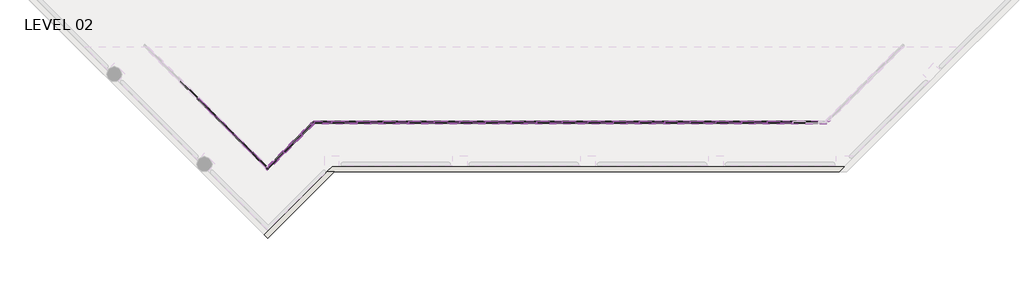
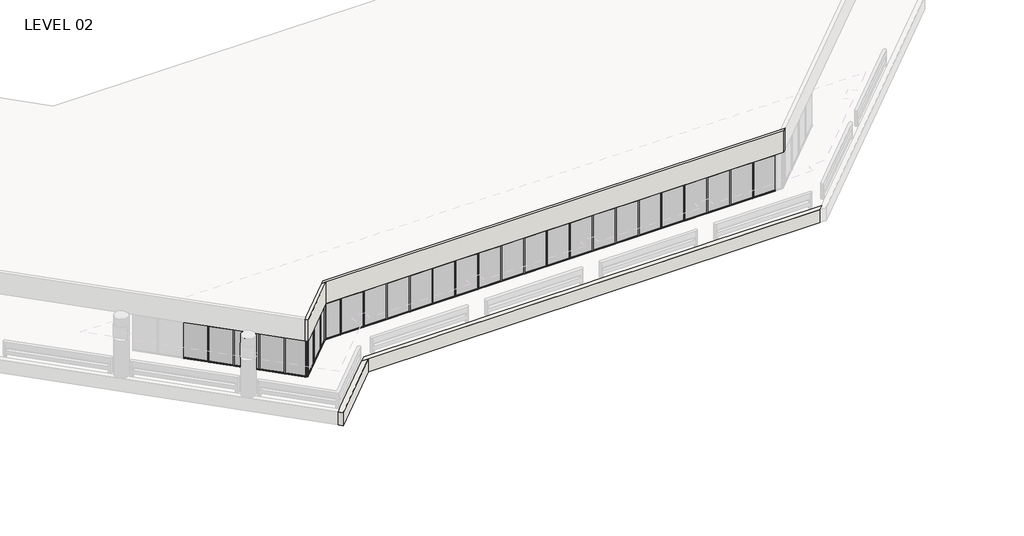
# One storey, part 1 of 19: 83 members, 28 plates, 4 walls.
"""IFC4 building model written with IfcOpenShell, lengths in millimetres."""

from ifc_helpers import new_model, si_unit, origin, place, context, project, spatial, faceted_brep, transform, mapped, element, save
from components import member_5247f267, member_ed5eb8ce, member_e44af9ab, member_800970d4, member_6d95746d, member_c23f844a, member_191f7a6c, member_e56bd8eb, plate_ce959b8d, plate_67294edd, plate_028de0fc, plate_c15461e5, plate_e2551f41, plate_50b9cd61

model = new_model("IFC4")

# Units and contexts
model_context = context("Model", 3, world=origin())
ifc_project = project(units=[si_unit("LENGTHUNIT", "METRE", prefix="MILLI")], contexts=[model_context])

# Site, building, storey
site = spatial("IfcSite", under=ifc_project)
building = spatial("IfcBuilding", under=site)
storey = spatial("IfcBuildingStorey", under=building, Name="LEVEL 02", Elevation=4140.2)

# Members
placement = place(None, origin())
member_shape = member_5247f267(model_context)
element("IfcMember", 1, ObjectType="Rectangular Mullion : 2\" x 4.5\" rectangular", at=placement, inside=storey, context=model_context, shape_type="MappedRepresentation", body=[
    mapped(member_shape, transform((18421.35, -2101.1671279, 4140.2), x_axis=(0.0, 0.0, -1.0), y_axis=(0.0, -1.0, 0.0), z_axis=(-1.0, 0.0, 0.0))),
])
element("IfcMember", 2, ObjectType="Rectangular Mullion : 2\" x 4.5\" rectangular", at=placement, inside=storey, context=model_context, shape_type="MappedRepresentation", body=[
    mapped(member_shape, transform((19945.35, -2101.1671279, 4140.2), x_axis=(0.0, 0.0, -1.0), y_axis=(0.0, -1.0, 0.0), z_axis=(-1.0, 0.0, 0.0))),
])
element("IfcMember", 3, ObjectType="Rectangular Mullion : 2\" x 4.5\" rectangular", at=placement, inside=storey, context=model_context, shape_type="MappedRepresentation", body=[
    mapped(member_shape, transform((24517.35, -2101.1671279, 4140.2), x_axis=(0.0, 0.0, -1.0), y_axis=(0.0, -1.0, 0.0), z_axis=(-1.0, 0.0, 0.0))),
])
element("IfcMember", 4, ObjectType="Rectangular Mullion : 2\" x 4.5\" rectangular", at=placement, inside=storey, context=model_context, shape_type="MappedRepresentation", body=[
    mapped(member_shape, transform((16596.8172391, -2827.1553914, 4140.2), x_axis=(0.0, 0.0, -1.0), y_axis=(-0.7071067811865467, 0.7071067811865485, 0.0), z_axis=(0.7071067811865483, 0.7071067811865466, 0.0))),
])
element("IfcMember", 5, ObjectType="Rectangular Mullion : 2\" x 4.5\" rectangular", at=placement, inside=storey, context=model_context, shape_type="MappedRepresentation", body=[
    mapped(member_shape, transform((26041.35, -2101.1671279, 4140.2), x_axis=(0.0, 0.0, -1.0), y_axis=(0.0, -1.0, 0.0), z_axis=(-1.0, 0.0, 0.0))),
])
element("IfcMember", 6, ObjectType="Rectangular Mullion : 2\" x 4.5\" rectangular", at=placement, inside=storey, context=model_context, shape_type="MappedRepresentation", body=[
    mapped(member_shape, transform((13637.83452, -3889.9071504, 4140.2), x_axis=(0.0, 0.0, -1.0), y_axis=(0.7071067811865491, 0.7071067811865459, 0.0), z_axis=(0.7071067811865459, -0.7071067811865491, 0.0))),
])
element("IfcMember", 7, ObjectType="Rectangular Mullion : 2\" x 4.5\" rectangular", at=placement, inside=storey, context=model_context, shape_type="MappedRepresentation", body=[
    mapped(member_shape, transform((30613.35, -2101.1671279, 4140.2), x_axis=(0.0, 0.0, -1.0), y_axis=(0.0, -1.0, 0.0), z_axis=(-1.0, 0.0, 0.0))),
])
element("IfcMember", 8, ObjectType="Rectangular Mullion : 2\" x 4.5\" rectangular", at=placement, inside=storey, context=model_context, shape_type="MappedRepresentation", body=[
    mapped(member_shape, transform((32137.35, -2101.1671279, 4140.2), x_axis=(0.0, 0.0, -1.0), y_axis=(0.0, -1.0, 0.0), z_axis=(-1.0, 0.0, 0.0))),
])
element("IfcMember", 9, ObjectType="Rectangular Mullion : 2\" x 4.5\" rectangular", at=placement, inside=storey, context=model_context, shape_type="MappedRepresentation", body=[
    mapped(member_shape, transform((35185.35, -2101.1671279, 4140.2), x_axis=(0.0, 0.0, -1.0), y_axis=(0.0, -1.0, 0.0), z_axis=(-1.0, 0.0, 0.0))),
])
element("IfcMember", 10, ObjectType="Rectangular Mullion : 2\" x 4.5\" rectangular", at=placement, inside=storey, context=model_context, shape_type="MappedRepresentation", body=[
    mapped(member_shape, transform((38233.35, -2101.1671279, 4140.2), x_axis=(0.0, 0.0, -1.0), y_axis=(0.0, -1.0, 0.0), z_axis=(-1.0, 0.0, 0.0))),
])
element("IfcMember", 11, ObjectType="Rectangular Mullion : 2\" x 4.5\" rectangular", at=placement, inside=storey, context=model_context, shape_type="MappedRepresentation", body=[
    mapped(member_shape, transform((41281.35, -2101.1671279, 4140.2), x_axis=(0.0, 0.0, -1.0), y_axis=(0.0, -1.0, 0.0), z_axis=(-1.0, 0.0, 0.0))),
])
element("IfcMember", 12, ObjectType="Rectangular Mullion : 2\" x 4.5\" rectangular", at=placement, inside=storey, context=model_context, shape_type="MappedRepresentation", body=[
    mapped(member_shape, transform((45853.35, -2101.1671279, 4140.2), x_axis=(0.0, 0.0, -1.0), y_axis=(0.0, -1.0, 0.0), z_axis=(-1.0, 0.0, 0.0))),
])
element("IfcMember", 13, ObjectType="Rectangular Mullion : 2\" x 4.5\" rectangular", at=placement, inside=storey, context=model_context, shape_type="MappedRepresentation", body=[
    mapped(member_shape, transform((21469.35, -2101.1671279, 4140.2), x_axis=(0.0, 0.0, -1.0), y_axis=(0.0, -1.0, 0.0), z_axis=(-1.0, 0.0, 0.0))),
])
element("IfcMember", 14, ObjectType="Rectangular Mullion : 2\" x 4.5\" rectangular", at=placement, inside=storey, context=model_context, shape_type="MappedRepresentation", body=[
    mapped(member_shape, transform((22993.35, -2101.1671279, 4140.2), x_axis=(0.0, 0.0, -1.0), y_axis=(0.0, -1.0, 0.0), z_axis=(-1.0, 0.0, 0.0))),
])
element("IfcMember", 15, ObjectType="Rectangular Mullion : 2\" x 4.5\" rectangular", at=placement, inside=storey, context=model_context, shape_type="MappedRepresentation", body=[
    mapped(member_shape, transform((27565.35, -2101.1671279, 4140.2), x_axis=(0.0, 0.0, -1.0), y_axis=(0.0, -1.0, 0.0), z_axis=(-1.0, 0.0, 0.0))),
])
element("IfcMember", 16, ObjectType="Rectangular Mullion : 2\" x 4.5\" rectangular", at=placement, inside=storey, context=model_context, shape_type="MappedRepresentation", body=[
    mapped(member_shape, transform((29089.35, -2101.1671279, 4140.2), x_axis=(0.0, 0.0, -1.0), y_axis=(0.0, -1.0, 0.0), z_axis=(-1.0, 0.0, 0.0))),
])
element("IfcMember", 17, ObjectType="Rectangular Mullion : 2\" x 4.5\" rectangular", at=placement, inside=storey, context=model_context, shape_type="MappedRepresentation", body=[
    mapped(member_shape, transform((33661.35, -2101.1671279, 4140.2), x_axis=(0.0, 0.0, -1.0), y_axis=(0.0, -1.0, 0.0), z_axis=(-1.0, 0.0, 0.0))),
])
element("IfcMember", 18, ObjectType="Rectangular Mullion : 2\" x 4.5\" rectangular", at=placement, inside=storey, context=model_context, shape_type="MappedRepresentation", body=[
    mapped(member_shape, transform((36709.35, -2101.1671279, 4140.2), x_axis=(0.0, 0.0, -1.0), y_axis=(0.0, -1.0, 0.0), z_axis=(-1.0, 0.0, 0.0))),
])
element("IfcMember", 19, ObjectType="Rectangular Mullion : 2\" x 4.5\" rectangular", at=placement, inside=storey, context=model_context, shape_type="MappedRepresentation", body=[
    mapped(member_shape, transform((39757.35, -2101.1671279, 4140.2), x_axis=(0.0, 0.0, -1.0), y_axis=(0.0, -1.0, 0.0), z_axis=(-1.0, 0.0, 0.0))),
])
element("IfcMember", 20, ObjectType="Rectangular Mullion : 2\" x 4.5\" rectangular", at=placement, inside=storey, context=model_context, shape_type="MappedRepresentation", body=[
    mapped(member_shape, transform((42805.35, -2101.1671279, 4140.2), x_axis=(0.0, 0.0, -1.0), y_axis=(0.0, -1.0, 0.0), z_axis=(-1.0, 0.0, 0.0))),
])
element("IfcMember", 21, ObjectType="Rectangular Mullion : 2\" x 4.5\" rectangular", at=placement, inside=storey, context=model_context, shape_type="MappedRepresentation", body=[
    mapped(member_shape, transform((44329.35, -2101.1671279, 4140.2), x_axis=(0.0, 0.0, -1.0), y_axis=(0.0, -1.0, 0.0), z_axis=(-1.0, 0.0, 0.0))),
])
element("IfcMember", 22, ObjectType="Rectangular Mullion : 2\" x 4.5\" rectangular", at=placement, inside=storey, context=model_context, shape_type="MappedRepresentation", body=[
    mapped(member_shape, transform((19894.55, -2101.1671279, 6731.0), x_axis=(0.0, 0.0, 1.0), y_axis=(0.0, -1.0, 0.0), z_axis=(1.0, 0.0, 0.0))),
])
element("IfcMember", 23, ObjectType="Rectangular Mullion : 2\" x 4.5\" rectangular", at=placement, inside=storey, context=model_context, shape_type="MappedRepresentation", body=[
    mapped(member_shape, transform((24466.55, -2101.1671279, 6731.0), x_axis=(0.0, 0.0, 1.0), y_axis=(0.0, -1.0, 0.0), z_axis=(1.0, 0.0, 0.0))),
])
element("IfcMember", 24, ObjectType="Rectangular Mullion : 2\" x 4.5\" rectangular", at=placement, inside=storey, context=model_context, shape_type="MappedRepresentation", body=[
    mapped(member_shape, transform((25990.55, -2101.1671279, 6731.0), x_axis=(0.0, 0.0, 1.0), y_axis=(0.0, -1.0, 0.0), z_axis=(1.0, 0.0, 0.0))),
])
element("IfcMember", 25, ObjectType="Rectangular Mullion : 2\" x 4.5\" rectangular", at=placement, inside=storey, context=model_context, shape_type="MappedRepresentation", body=[
    mapped(member_shape, transform((12596.1248099, -2848.1974404, 6731.0), x_axis=(0.0, 0.0, 1.0), y_axis=(0.7071067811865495, 0.7071067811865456, 0.0), z_axis=(-0.7071067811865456, 0.7071067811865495, 0.0))),
])
element("IfcMember", 26, ObjectType="Rectangular Mullion : 2\" x 4.5\" rectangular", at=placement, inside=storey, context=model_context, shape_type="MappedRepresentation", body=[
    mapped(member_shape, transform((30562.55, -2101.1671279, 6731.0), x_axis=(0.0, 0.0, 1.0), y_axis=(0.0, -1.0, 0.0), z_axis=(1.0, 0.0, 0.0))),
])
element("IfcMember", 27, ObjectType="Rectangular Mullion : 2\" x 4.5\" rectangular", at=placement, inside=storey, context=model_context, shape_type="MappedRepresentation", body=[
    mapped(member_shape, transform((32086.55, -2101.1671279, 6731.0), x_axis=(0.0, 0.0, 1.0), y_axis=(0.0, -1.0, 0.0), z_axis=(1.0, 0.0, 0.0))),
])
element("IfcMember", 28, ObjectType="Rectangular Mullion : 2\" x 4.5\" rectangular", at=placement, inside=storey, context=model_context, shape_type="MappedRepresentation", body=[
    mapped(member_shape, transform((35134.55, -2101.1671279, 6731.0), x_axis=(0.0, 0.0, 1.0), y_axis=(0.0, -1.0, 0.0), z_axis=(1.0, 0.0, 0.0))),
])
element("IfcMember", 29, ObjectType="Rectangular Mullion : 2\" x 4.5\" rectangular", at=placement, inside=storey, context=model_context, shape_type="MappedRepresentation", body=[
    mapped(member_shape, transform((38182.55, -2101.1671279, 6731.0), x_axis=(0.0, 0.0, 1.0), y_axis=(0.0, -1.0, 0.0), z_axis=(1.0, 0.0, 0.0))),
])
element("IfcMember", 30, ObjectType="Rectangular Mullion : 2\" x 4.5\" rectangular", at=placement, inside=storey, context=model_context, shape_type="MappedRepresentation", body=[
    mapped(member_shape, transform((41230.55, -2101.1671279, 6731.0), x_axis=(0.0, 0.0, 1.0), y_axis=(0.0, -1.0, 0.0), z_axis=(1.0, 0.0, 0.0))),
])
element("IfcMember", 31, ObjectType="Rectangular Mullion : 2\" x 4.5\" rectangular", at=placement, inside=storey, context=model_context, shape_type="MappedRepresentation", body=[
    mapped(member_shape, transform((45802.55, -2101.1671279, 6731.0), x_axis=(0.0, 0.0, 1.0), y_axis=(0.0, -1.0, 0.0), z_axis=(1.0, 0.0, 0.0))),
])
element("IfcMember", 32, ObjectType="Rectangular Mullion : 2\" x 4.5\" rectangular", at=placement, inside=storey, context=model_context, shape_type="MappedRepresentation", body=[
    mapped(member_shape, transform((15555.107529, -3868.8651015, 6731.0), x_axis=(0.0, 0.0, 1.0), y_axis=(-0.7071067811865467, 0.7071067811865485, 0.0), z_axis=(-0.7071067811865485, -0.7071067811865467, 0.0))),
])
element("IfcMember", 33, ObjectType="Rectangular Mullion : 2\" x 4.5\" rectangular", at=placement, inside=storey, context=model_context, shape_type="MappedRepresentation", body=[
    mapped(member_shape, transform((21418.55, -2101.1671279, 6731.0), x_axis=(0.0, 0.0, 1.0), y_axis=(0.0, -1.0, 0.0), z_axis=(1.0, 0.0, 0.0))),
])
element("IfcMember", 34, ObjectType="Rectangular Mullion : 2\" x 4.5\" rectangular", at=placement, inside=storey, context=model_context, shape_type="MappedRepresentation", body=[
    mapped(member_shape, transform((22942.55, -2101.1671279, 6731.0), x_axis=(0.0, 0.0, 1.0), y_axis=(0.0, -1.0, 0.0), z_axis=(1.0, 0.0, 0.0))),
])
element("IfcMember", 35, ObjectType="Rectangular Mullion : 2\" x 4.5\" rectangular", at=placement, inside=storey, context=model_context, shape_type="MappedRepresentation", body=[
    mapped(member_shape, transform((27514.55, -2101.1671279, 6731.0), x_axis=(0.0, 0.0, 1.0), y_axis=(0.0, -1.0, 0.0), z_axis=(1.0, 0.0, 0.0))),
])
element("IfcMember", 36, ObjectType="Rectangular Mullion : 2\" x 4.5\" rectangular", at=placement, inside=storey, context=model_context, shape_type="MappedRepresentation", body=[
    mapped(member_shape, transform((29038.55, -2101.1671279, 6731.0), x_axis=(0.0, 0.0, 1.0), y_axis=(0.0, -1.0, 0.0), z_axis=(1.0, 0.0, 0.0))),
])
element("IfcMember", 37, ObjectType="Rectangular Mullion : 2\" x 4.5\" rectangular", at=placement, inside=storey, context=model_context, shape_type="MappedRepresentation", body=[
    mapped(member_shape, transform((33610.55, -2101.1671279, 6731.0), x_axis=(0.0, 0.0, 1.0), y_axis=(0.0, -1.0, 0.0), z_axis=(1.0, 0.0, 0.0))),
])
element("IfcMember", 38, ObjectType="Rectangular Mullion : 2\" x 4.5\" rectangular", at=placement, inside=storey, context=model_context, shape_type="MappedRepresentation", body=[
    mapped(member_shape, transform((36658.55, -2101.1671279, 6731.0), x_axis=(0.0, 0.0, 1.0), y_axis=(0.0, -1.0, 0.0), z_axis=(1.0, 0.0, 0.0))),
])
element("IfcMember", 39, ObjectType="Rectangular Mullion : 2\" x 4.5\" rectangular", at=placement, inside=storey, context=model_context, shape_type="MappedRepresentation", body=[
    mapped(member_shape, transform((39706.55, -2101.1671279, 6731.0), x_axis=(0.0, 0.0, 1.0), y_axis=(0.0, -1.0, 0.0), z_axis=(1.0, 0.0, 0.0))),
])
element("IfcMember", 40, ObjectType="Rectangular Mullion : 2\" x 4.5\" rectangular", at=placement, inside=storey, context=model_context, shape_type="MappedRepresentation", body=[
    mapped(member_shape, transform((42754.55, -2101.1671279, 6731.0), x_axis=(0.0, 0.0, 1.0), y_axis=(0.0, -1.0, 0.0), z_axis=(1.0, 0.0, 0.0))),
])
element("IfcMember", 41, ObjectType="Rectangular Mullion : 2\" x 4.5\" rectangular", at=placement, inside=storey, context=model_context, shape_type="MappedRepresentation", body=[
    mapped(member_shape, transform((44278.55, -2101.1671279, 6731.0), x_axis=(0.0, 0.0, 1.0), y_axis=(0.0, -1.0, 0.0), z_axis=(1.0, 0.0, 0.0))),
])
member_2_shape = member_ed5eb8ce(model_context)
element("IfcMember", 42, ObjectType="Rectangular Mullion : 2\" x 4.5\" rectangular", at=placement, inside=storey, context=model_context, shape_type="MappedRepresentation", body=[
    mapped(member_2_shape, transform((18370.55, -2101.1671279, 6731.0), x_axis=(0.0, 0.0, 1.0), y_axis=(0.0, -1.0, 0.0), z_axis=(1.0, 0.0, 0.0))),
])
element("IfcMember", 43, ObjectType="Rectangular Mullion : 2\" x 4.5\" rectangular", at=placement, inside=storey, context=model_context, shape_type="MappedRepresentation", body=[
    mapped(member_2_shape, transform((17373.6055026, -2101.1671279, 4140.2), x_axis=(0.0, 0.0, -1.0), y_axis=(0.0, -1.0, 0.0), z_axis=(-1.0, 0.0, 0.0))),
])
member_3_shape = member_e44af9ab(model_context)
element("IfcMember", 44, ObjectType="Rectangular Mullion : 2\" x 4.5\" rectangular", at=placement, inside=storey, context=model_context, shape_type="MappedRepresentation", body=[
    mapped(member_3_shape, transform((18395.95, -2101.1671279, 4140.2), x_axis=(1.0, 0.0, 0.0), y_axis=(0.0, -1.0, 0.0), z_axis=(0.0, 0.0, -1.0))),
])
element("IfcMember", 45, ObjectType="Rectangular Mullion : 2\" x 4.5\" rectangular", at=placement, inside=storey, context=model_context, shape_type="MappedRepresentation", body=[
    mapped(member_3_shape, transform((19919.95, -2101.1671279, 4140.2), x_axis=(1.0, 0.0, 0.0), y_axis=(0.0, -1.0, 0.0), z_axis=(0.0, 0.0, -1.0))),
])
element("IfcMember", 46, ObjectType="Rectangular Mullion : 2\" x 4.5\" rectangular", at=placement, inside=storey, context=model_context, shape_type="MappedRepresentation", body=[
    mapped(member_3_shape, transform((24491.95, -2101.1671279, 4140.2), x_axis=(1.0, 0.0, 0.0), y_axis=(0.0, -1.0, 0.0), z_axis=(0.0, 0.0, -1.0))),
])
element("IfcMember", 47, ObjectType="Rectangular Mullion : 2\" x 4.5\" rectangular", at=placement, inside=storey, context=model_context, shape_type="MappedRepresentation", body=[
    mapped(member_3_shape, transform((16614.7777513, -2809.1948792, 4140.2), x_axis=(-0.7071067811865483, -0.7071067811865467, 0.0), y_axis=(-0.7071067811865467, 0.7071067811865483, 0.0), z_axis=(0.0, 0.0, -1.0))),
])
element("IfcMember", 48, ObjectType="Rectangular Mullion : 2\" x 4.5\" rectangular", at=placement, inside=storey, context=model_context, shape_type="MappedRepresentation", body=[
    mapped(member_3_shape, transform((26015.95, -2101.1671279, 4140.2), x_axis=(1.0, 0.0, 0.0), y_axis=(0.0, -1.0, 0.0), z_axis=(0.0, 0.0, -1.0))),
])
element("IfcMember", 49, ObjectType="Rectangular Mullion : 2\" x 4.5\" rectangular", at=placement, inside=storey, context=model_context, shape_type="MappedRepresentation", body=[
    mapped(member_3_shape, transform((13655.7950322, -3907.8676627, 4140.2), x_axis=(-0.7071067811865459, 0.7071067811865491, 0.0), y_axis=(0.7071067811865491, 0.7071067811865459, 0.0), z_axis=(0.0, 0.0, -1.0))),
])
element("IfcMember", 50, ObjectType="Rectangular Mullion : 2\" x 4.5\" rectangular", at=placement, inside=storey, context=model_context, shape_type="MappedRepresentation", body=[
    mapped(member_3_shape, transform((12578.1642977, -2830.2369282, 4140.2), x_axis=(-0.7071067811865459, 0.7071067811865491, 0.0), y_axis=(0.7071067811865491, 0.7071067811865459, 0.0), z_axis=(0.0, 0.0, -1.0))),
])
element("IfcMember", 51, ObjectType="Rectangular Mullion : 2\" x 4.5\" rectangular", at=placement, inside=storey, context=model_context, shape_type="MappedRepresentation", body=[
    mapped(member_3_shape, transform((11506.5208879, -1758.5935184, 4140.2), x_axis=(-0.7071067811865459, 0.7071067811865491, 0.0), y_axis=(0.7071067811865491, 0.7071067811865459, 0.0), z_axis=(0.0, 0.0, -1.0))),
])
element("IfcMember", 52, ObjectType="Rectangular Mullion : 2\" x 4.5\" rectangular", at=placement, inside=storey, context=model_context, shape_type="MappedRepresentation", body=[
    mapped(member_3_shape, transform((10434.8774781, -686.9501086, 4140.2), x_axis=(-0.7071067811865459, 0.7071067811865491, 0.0), y_axis=(0.7071067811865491, 0.7071067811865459, 0.0), z_axis=(0.0, 0.0, -1.0))),
])
element("IfcMember", 53, ObjectType="Rectangular Mullion : 2\" x 4.5\" rectangular", at=placement, inside=storey, context=model_context, shape_type="MappedRepresentation", body=[
    mapped(member_3_shape, transform((30587.95, -2101.1671279, 4140.2), x_axis=(1.0, 0.0, 0.0), y_axis=(0.0, -1.0, 0.0), z_axis=(0.0, 0.0, -1.0))),
])
element("IfcMember", 54, ObjectType="Rectangular Mullion : 2\" x 4.5\" rectangular", at=placement, inside=storey, context=model_context, shape_type="MappedRepresentation", body=[
    mapped(member_3_shape, transform((32111.95, -2101.1671279, 4140.2), x_axis=(1.0, 0.0, 0.0), y_axis=(0.0, -1.0, 0.0), z_axis=(0.0, 0.0, -1.0))),
])
element("IfcMember", 55, ObjectType="Rectangular Mullion : 2\" x 4.5\" rectangular", at=placement, inside=storey, context=model_context, shape_type="MappedRepresentation", body=[
    mapped(member_3_shape, transform((35159.95, -2101.1671279, 4140.2), x_axis=(1.0, 0.0, 0.0), y_axis=(0.0, -1.0, 0.0), z_axis=(0.0, 0.0, -1.0))),
])
element("IfcMember", 56, ObjectType="Rectangular Mullion : 2\" x 4.5\" rectangular", at=placement, inside=storey, context=model_context, shape_type="MappedRepresentation", body=[
    mapped(member_3_shape, transform((38207.95, -2101.1671279, 4140.2), x_axis=(1.0, 0.0, 0.0), y_axis=(0.0, -1.0, 0.0), z_axis=(0.0, 0.0, -1.0))),
])
element("IfcMember", 57, ObjectType="Rectangular Mullion : 2\" x 4.5\" rectangular", at=placement, inside=storey, context=model_context, shape_type="MappedRepresentation", body=[
    mapped(member_3_shape, transform((41255.95, -2101.1671279, 4140.2), x_axis=(1.0, 0.0, 0.0), y_axis=(0.0, -1.0, 0.0), z_axis=(0.0, 0.0, -1.0))),
])
element("IfcMember", 58, ObjectType="Rectangular Mullion : 2\" x 4.5\" rectangular", at=placement, inside=storey, context=model_context, shape_type="MappedRepresentation", body=[
    mapped(member_3_shape, transform((42779.95, -2101.1671279, 4140.2), x_axis=(1.0, 0.0, 0.0), y_axis=(0.0, -1.0, 0.0), z_axis=(0.0, 0.0, -1.0))),
])
element("IfcMember", 59, ObjectType="Rectangular Mullion : 2\" x 4.5\" rectangular", at=placement, inside=storey, context=model_context, shape_type="MappedRepresentation", body=[
    mapped(member_3_shape, transform((45827.95, -2101.1671279, 4140.2), x_axis=(1.0, 0.0, 0.0), y_axis=(0.0, -1.0, 0.0), z_axis=(0.0, 0.0, -1.0))),
])
element("IfcMember", 60, ObjectType="Rectangular Mullion : 2\" x 4.5\" rectangular", at=placement, inside=storey, context=model_context, shape_type="MappedRepresentation", body=[
    mapped(member_3_shape, transform((15537.1470168, -3886.8256137, 4140.2), x_axis=(-0.7071067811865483, -0.7071067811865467, 0.0), y_axis=(-0.7071067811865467, 0.7071067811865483, 0.0), z_axis=(0.0, 0.0, -1.0))),
])
element("IfcMember", 61, ObjectType="Rectangular Mullion : 2\" x 4.5\" rectangular", at=placement, inside=storey, context=model_context, shape_type="MappedRepresentation", body=[
    mapped(member_3_shape, transform((21443.95, -2101.1671279, 4140.2), x_axis=(1.0, 0.0, 0.0), y_axis=(0.0, -1.0, 0.0), z_axis=(0.0, 0.0, -1.0))),
])
element("IfcMember", 62, ObjectType="Rectangular Mullion : 2\" x 4.5\" rectangular", at=placement, inside=storey, context=model_context, shape_type="MappedRepresentation", body=[
    mapped(member_3_shape, transform((22967.95, -2101.1671279, 4140.2), x_axis=(1.0, 0.0, 0.0), y_axis=(0.0, -1.0, 0.0), z_axis=(0.0, 0.0, -1.0))),
])
element("IfcMember", 63, ObjectType="Rectangular Mullion : 2\" x 4.5\" rectangular", at=placement, inside=storey, context=model_context, shape_type="MappedRepresentation", body=[
    mapped(member_3_shape, transform((27539.95, -2101.1671279, 4140.2), x_axis=(1.0, 0.0, 0.0), y_axis=(0.0, -1.0, 0.0), z_axis=(0.0, 0.0, -1.0))),
])
element("IfcMember", 64, ObjectType="Rectangular Mullion : 2\" x 4.5\" rectangular", at=placement, inside=storey, context=model_context, shape_type="MappedRepresentation", body=[
    mapped(member_3_shape, transform((29063.95, -2101.1671279, 4140.2), x_axis=(1.0, 0.0, 0.0), y_axis=(0.0, -1.0, 0.0), z_axis=(0.0, 0.0, -1.0))),
])
element("IfcMember", 65, ObjectType="Rectangular Mullion : 2\" x 4.5\" rectangular", at=placement, inside=storey, context=model_context, shape_type="MappedRepresentation", body=[
    mapped(member_3_shape, transform((33635.95, -2101.1671279, 4140.2), x_axis=(1.0, 0.0, 0.0), y_axis=(0.0, -1.0, 0.0), z_axis=(0.0, 0.0, -1.0))),
])
element("IfcMember", 66, ObjectType="Rectangular Mullion : 2\" x 4.5\" rectangular", at=placement, inside=storey, context=model_context, shape_type="MappedRepresentation", body=[
    mapped(member_3_shape, transform((36683.95, -2101.1671279, 4140.2), x_axis=(1.0, 0.0, 0.0), y_axis=(0.0, -1.0, 0.0), z_axis=(0.0, 0.0, -1.0))),
])
element("IfcMember", 67, ObjectType="Rectangular Mullion : 2\" x 4.5\" rectangular", at=placement, inside=storey, context=model_context, shape_type="MappedRepresentation", body=[
    mapped(member_3_shape, transform((39731.95, -2101.1671279, 4140.2), x_axis=(1.0, 0.0, 0.0), y_axis=(0.0, -1.0, 0.0), z_axis=(0.0, 0.0, -1.0))),
])
element("IfcMember", 68, ObjectType="Rectangular Mullion : 2\" x 4.5\" rectangular", at=placement, inside=storey, context=model_context, shape_type="MappedRepresentation", body=[
    mapped(member_3_shape, transform((44303.95, -2101.1671279, 4140.2), x_axis=(1.0, 0.0, 0.0), y_axis=(0.0, -1.0, 0.0), z_axis=(0.0, 0.0, -1.0))),
])
member_4_shape = member_800970d4(model_context)
element("IfcMember", 69, ObjectType="Rectangular Mullion : 2\" x 4.5\" rectangular", at=placement, inside=storey, context=model_context, shape_type="MappedRepresentation", body=[
    mapped(member_4_shape, transform((14585.95, -4838.0226305, 4140.2), x_axis=(-0.7071067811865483, -0.7071067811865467, 0.0), y_axis=(-0.7071067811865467, 0.7071067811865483, 0.0), z_axis=(0.0, 0.0, -1.0))),
])
element("IfcMember", 70, ObjectType="Rectangular Mullion : 2\" x 4.5\" rectangular", at=placement, inside=storey, context=model_context, shape_type="MappedRepresentation", body=[
    mapped(member_4_shape, transform((17322.8055026, -2101.1671279, 6731.0), x_axis=(-1.0, 0.0, 0.0), y_axis=(0.0, -1.0, 0.0), z_axis=(0.0, 0.0, 1.0))),
])
element("IfcMember", 71, ObjectType="Rectangular Mullion : 2\" x 4.5\" rectangular", at=placement, inside=storey, context=model_context, shape_type="MappedRepresentation", body=[
    mapped(member_4_shape, transform((17322.8055026, -2101.1671279, 6731.0), x_axis=(0.7071067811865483, 0.7071067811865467, 0.0), y_axis=(-0.7071067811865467, 0.7071067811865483, 0.0), z_axis=(0.0, 0.0, 1.0))),
])
element("IfcMember", 72, ObjectType="Rectangular Mullion : 2\" x 4.5\" rectangular", at=placement, inside=storey, context=model_context, shape_type="MappedRepresentation", body=[
    mapped(member_4_shape, transform((14585.95, -4838.0226305, 6731.0), x_axis=(0.7071067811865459, -0.7071067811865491, 0.0), y_axis=(0.7071067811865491, 0.7071067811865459, 0.0), z_axis=(0.0, 0.0, 1.0))),
])
member_5_shape = member_6d95746d(model_context)
element("IfcMember", 73, ObjectType="Rectangular Mullion : 2\" x 4.5\" rectangular", at=placement, inside=storey, context=model_context, shape_type="MappedRepresentation", body=[
    mapped(member_5_shape, transform((13673.7555444, -3925.8281749, 6731.0), x_axis=(0.0, 0.0, 1.0), y_axis=(0.7071067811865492, 0.7071067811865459, 0.0), z_axis=(-0.7071067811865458, 0.7071067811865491, 0.0))),
])
element("IfcMember", 74, ObjectType="Rectangular Mullion : 2\" x 4.5\" rectangular", at=placement, inside=storey, context=model_context, shape_type="MappedRepresentation", body=[
    mapped(member_5_shape, transform((14550.0289755, -4802.101606, 4140.2), x_axis=(0.0, 0.0, -1.0), y_axis=(0.7071067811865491, 0.7071067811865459, 0.0), z_axis=(0.7071067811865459, -0.7071067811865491, 0.0))),
])
member_6_shape = member_c23f844a(model_context)
element("IfcMember", 75, ObjectType="Rectangular Mullion : 2\" x 4.5\" rectangular", at=placement, inside=storey, context=model_context, shape_type="MappedRepresentation", body=[
    mapped(member_6_shape, transform((11524.4814001, -1776.5540306, 6731.0), x_axis=(0.0, 0.0, 1.0), y_axis=(0.7071067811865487, 0.7071067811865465, 0.0), z_axis=(-0.7071067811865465, 0.7071067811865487, 0.0))),
])
element("IfcMember", 76, ObjectType="Rectangular Mullion : 2\" x 4.5\" rectangular", at=placement, inside=storey, context=model_context, shape_type="MappedRepresentation", body=[
    mapped(member_6_shape, transform((10452.8379903, -704.9106208, 6731.0), x_axis=(0.0, 0.0, 1.0), y_axis=(0.707106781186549, 0.7071067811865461, 0.0), z_axis=(-0.707106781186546, 0.7071067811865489, 0.0))),
])
element("IfcMember", 77, ObjectType="Rectangular Mullion : 2\" x 4.5\" rectangular", at=placement, inside=storey, context=model_context, shape_type="MappedRepresentation", body=[
    mapped(member_6_shape, transform((12560.2037854, -2812.2764159, 4140.2), x_axis=(0.0, 0.0, -1.0), y_axis=(0.7071067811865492, 0.7071067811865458, 0.0), z_axis=(0.7071067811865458, -0.7071067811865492, 0.0))),
])
element("IfcMember", 78, ObjectType="Rectangular Mullion : 2\" x 4.5\" rectangular", at=placement, inside=storey, context=model_context, shape_type="MappedRepresentation", body=[
    mapped(member_6_shape, transform((11488.5603756, -1740.6330061, 4140.2), x_axis=(0.0, 0.0, -1.0), y_axis=(0.7071067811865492, 0.7071067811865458, 0.0), z_axis=(0.7071067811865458, -0.7071067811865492, 0.0))),
])
element("IfcMember", 79, ObjectType="Rectangular Mullion : 2\" x 4.5\" rectangular", at=placement, inside=storey, context=model_context, shape_type="MappedRepresentation", body=[
    mapped(member_6_shape, transform((10416.9169658, -668.9895963, 4140.2), x_axis=(0.0, 0.0, -1.0), y_axis=(0.7071067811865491, 0.7071067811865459, 0.0), z_axis=(0.7071067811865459, -0.7071067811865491, 0.0))),
])
member_7_shape = member_191f7a6c(model_context)
element("IfcMember", 80, ObjectType="Rectangular Mullion : 2\" x 4.5\" rectangular", at=placement, inside=storey, context=model_context, shape_type="MappedRepresentation", body=[
    mapped(member_7_shape, transform((16632.7382635, -2791.2343669, 6731.0), x_axis=(0.0, 0.0, 1.0), y_axis=(-0.7071067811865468, 0.7071067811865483, 0.0), z_axis=(-0.7071067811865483, -0.7071067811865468, 0.0))),
])
element("IfcMember", 81, ObjectType="Rectangular Mullion : 2\" x 4.5\" rectangular", at=placement, inside=storey, context=model_context, shape_type="MappedRepresentation", body=[
    mapped(member_7_shape, transform((17286.8844781, -2137.0881524, 4140.2), x_axis=(0.0, 0.0, -1.0), y_axis=(-0.7071067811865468, 0.7071067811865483, 0.0), z_axis=(0.7071067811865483, 0.7071067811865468, 0.0))),
])
member_8_shape = member_e56bd8eb(model_context)
element("IfcMember", 82, ObjectType="Rectangular Mullion : 2\" x 4.5\" rectangular", at=placement, inside=storey, context=model_context, shape_type="MappedRepresentation", body=[
    mapped(member_8_shape, transform((14621.8710245, -4802.101606, 6731.0), x_axis=(0.0, 0.0, 1.0), y_axis=(-0.7071067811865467, 0.7071067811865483, 0.0), z_axis=(-0.7071067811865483, -0.7071067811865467, 0.0))),
])
element("IfcMember", 83, ObjectType="Rectangular Mullion : 2\" x 4.5\" rectangular", at=placement, inside=storey, context=model_context, shape_type="MappedRepresentation", body=[
    mapped(member_8_shape, transform((15519.1865045, -3904.786126, 4140.2), x_axis=(0.0, 0.0, -1.0), y_axis=(-0.7071067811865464, 0.7071067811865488, 0.0), z_axis=(0.7071067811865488, 0.7071067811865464, 0.0))),
])

# Plates
plate_shape = plate_ce959b8d(model_context)
element("IfcPlate", 84, ObjectType="System Panel : 1/4\" Glass", at=placement, inside=storey, context=model_context, shape_type="MappedRepresentation", body=[
    mapped(plate_shape, transform((17872.0777513, -2101.1671279, 4191.0), x_axis=(1.0, 0.0, 0.0), y_axis=(0.0, 1.0, 0.0), z_axis=(0.0, 0.0, 1.0))),
])
plate_2_shape = plate_67294edd(model_context)
element("IfcPlate", 85, ObjectType="System Panel : 1/4\" Glass", at=placement, inside=storey, context=model_context, shape_type="MappedRepresentation", body=[
    mapped(plate_2_shape, transform((19157.95, -2101.1671279, 4191.0), x_axis=(1.0, 0.0, 0.0), y_axis=(0.0, 1.0, 0.0), z_axis=(0.0, 0.0, 1.0))),
])
element("IfcPlate", 86, ObjectType="System Panel : 1/4\" Glass", at=placement, inside=storey, context=model_context, shape_type="MappedRepresentation", body=[
    mapped(plate_2_shape, transform((20681.95, -2101.1671279, 4191.0), x_axis=(1.0, 0.0, 0.0), y_axis=(0.0, 1.0, 0.0), z_axis=(0.0, 0.0, 1.0))),
])
element("IfcPlate", 87, ObjectType="System Panel : 1/4\" Glass", at=placement, inside=storey, context=model_context, shape_type="MappedRepresentation", body=[
    mapped(plate_2_shape, transform((25253.95, -2101.1671279, 4191.0), x_axis=(1.0, 0.0, 0.0), y_axis=(0.0, 1.0, 0.0), z_axis=(0.0, 0.0, 1.0))),
])
element("IfcPlate", 88, ObjectType="System Panel : 1/4\" Glass", at=placement, inside=storey, context=model_context, shape_type="MappedRepresentation", body=[
    mapped(plate_2_shape, transform((16075.962384, -3348.0102464, 4191.0), x_axis=(-0.7071067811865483, -0.7071067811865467, 0.0), y_axis=(0.7071067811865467, -0.7071067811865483, 0.0), z_axis=(0.0, 0.0, 1.0))),
])
element("IfcPlate", 89, ObjectType="System Panel : 1/4\" Glass", at=placement, inside=storey, context=model_context, shape_type="MappedRepresentation", body=[
    mapped(plate_2_shape, transform((26777.95, -2101.1671279, 4191.0), x_axis=(1.0, 0.0, 0.0), y_axis=(0.0, 1.0, 0.0), z_axis=(0.0, 0.0, 1.0))),
])
element("IfcPlate", 90, ObjectType="System Panel : 1/4\" Glass", at=placement, inside=storey, context=model_context, shape_type="MappedRepresentation", body=[
    mapped(plate_2_shape, transform((13116.9796649, -3369.0522954, 4191.0), x_axis=(-0.7071067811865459, 0.7071067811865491, 0.0), y_axis=(-0.7071067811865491, -0.7071067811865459, 0.0), z_axis=(0.0, 0.0, 1.0))),
])
element("IfcPlate", 91, ObjectType="System Panel : 1/4\" Glass", at=placement, inside=storey, context=model_context, shape_type="MappedRepresentation", body=[
    mapped(plate_2_shape, transform((31349.95, -2101.1671279, 4191.0), x_axis=(1.0, 0.0, 0.0), y_axis=(0.0, 1.0, 0.0), z_axis=(0.0, 0.0, 1.0))),
])
element("IfcPlate", 92, ObjectType="System Panel : 1/4\" Glass", at=placement, inside=storey, context=model_context, shape_type="MappedRepresentation", body=[
    mapped(plate_2_shape, transform((32873.95, -2101.1671279, 4191.0), x_axis=(1.0, 0.0, 0.0), y_axis=(0.0, 1.0, 0.0), z_axis=(0.0, 0.0, 1.0))),
])
element("IfcPlate", 93, ObjectType="System Panel : 1/4\" Glass", at=placement, inside=storey, context=model_context, shape_type="MappedRepresentation", body=[
    mapped(plate_2_shape, transform((35921.95, -2101.1671279, 4191.0), x_axis=(1.0, 0.0, 0.0), y_axis=(0.0, 1.0, 0.0), z_axis=(0.0, 0.0, 1.0))),
])
element("IfcPlate", 94, ObjectType="System Panel : 1/4\" Glass", at=placement, inside=storey, context=model_context, shape_type="MappedRepresentation", body=[
    mapped(plate_2_shape, transform((38969.95, -2101.1671279, 4191.0), x_axis=(1.0, 0.0, 0.0), y_axis=(0.0, 1.0, 0.0), z_axis=(0.0, 0.0, 1.0))),
])
element("IfcPlate", 95, ObjectType="System Panel : 1/4\" Glass", at=placement, inside=storey, context=model_context, shape_type="MappedRepresentation", body=[
    mapped(plate_2_shape, transform((42017.95, -2101.1671279, 4191.0), x_axis=(1.0, 0.0, 0.0), y_axis=(0.0, 1.0, 0.0), z_axis=(0.0, 0.0, 1.0))),
])
element("IfcPlate", 96, ObjectType="System Panel : 1/4\" Glass", at=placement, inside=storey, context=model_context, shape_type="MappedRepresentation", body=[
    mapped(plate_2_shape, transform((43541.95, -2101.1671279, 4191.0), x_axis=(1.0, 0.0, 0.0), y_axis=(0.0, 1.0, 0.0), z_axis=(0.0, 0.0, 1.0))),
])
element("IfcPlate", 97, ObjectType="System Panel : 1/4\" Glass", at=placement, inside=storey, context=model_context, shape_type="MappedRepresentation", body=[
    mapped(plate_2_shape, transform((46589.95, -2101.1671279, 4191.0), x_axis=(1.0, 0.0, 0.0), y_axis=(0.0, 1.0, 0.0), z_axis=(0.0, 0.0, 1.0))),
])
element("IfcPlate", 98, ObjectType="System Panel : 1/4\" Glass", at=placement, inside=storey, context=model_context, shape_type="MappedRepresentation", body=[
    mapped(plate_2_shape, transform((22205.95, -2101.1671279, 4191.0), x_axis=(1.0, 0.0, 0.0), y_axis=(0.0, 1.0, 0.0), z_axis=(0.0, 0.0, 1.0))),
])
element("IfcPlate", 99, ObjectType="System Panel : 1/4\" Glass", at=placement, inside=storey, context=model_context, shape_type="MappedRepresentation", body=[
    mapped(plate_2_shape, transform((23729.95, -2101.1671279, 4191.0), x_axis=(1.0, 0.0, 0.0), y_axis=(0.0, 1.0, 0.0), z_axis=(0.0, 0.0, 1.0))),
])
element("IfcPlate", 100, ObjectType="System Panel : 1/4\" Glass", at=placement, inside=storey, context=model_context, shape_type="MappedRepresentation", body=[
    mapped(plate_2_shape, transform((28301.95, -2101.1671279, 4191.0), x_axis=(1.0, 0.0, 0.0), y_axis=(0.0, 1.0, 0.0), z_axis=(0.0, 0.0, 1.0))),
])
element("IfcPlate", 101, ObjectType="System Panel : 1/4\" Glass", at=placement, inside=storey, context=model_context, shape_type="MappedRepresentation", body=[
    mapped(plate_2_shape, transform((29825.95, -2101.1671279, 4191.0), x_axis=(1.0, 0.0, 0.0), y_axis=(0.0, 1.0, 0.0), z_axis=(0.0, 0.0, 1.0))),
])
element("IfcPlate", 102, ObjectType="System Panel : 1/4\" Glass", at=placement, inside=storey, context=model_context, shape_type="MappedRepresentation", body=[
    mapped(plate_2_shape, transform((34397.95, -2101.1671279, 4191.0), x_axis=(1.0, 0.0, 0.0), y_axis=(0.0, 1.0, 0.0), z_axis=(0.0, 0.0, 1.0))),
])
element("IfcPlate", 103, ObjectType="System Panel : 1/4\" Glass", at=placement, inside=storey, context=model_context, shape_type="MappedRepresentation", body=[
    mapped(plate_2_shape, transform((37445.95, -2101.1671279, 4191.0), x_axis=(1.0, 0.0, 0.0), y_axis=(0.0, 1.0, 0.0), z_axis=(0.0, 0.0, 1.0))),
])
element("IfcPlate", 104, ObjectType="System Panel : 1/4\" Glass", at=placement, inside=storey, context=model_context, shape_type="MappedRepresentation", body=[
    mapped(plate_2_shape, transform((40493.95, -2101.1671279, 4191.0), x_axis=(1.0, 0.0, 0.0), y_axis=(0.0, 1.0, 0.0), z_axis=(0.0, 0.0, 1.0))),
])
element("IfcPlate", 105, ObjectType="System Panel : 1/4\" Glass", at=placement, inside=storey, context=model_context, shape_type="MappedRepresentation", body=[
    mapped(plate_2_shape, transform((45065.95, -2101.1671279, 4191.0), x_axis=(1.0, 0.0, 0.0), y_axis=(0.0, 1.0, 0.0), z_axis=(0.0, 0.0, 1.0))),
])
plate_3_shape = plate_028de0fc(model_context)
element("IfcPlate", 106, ObjectType="System Panel : 1/4\" Glass", at=placement, inside=storey, context=model_context, shape_type="MappedRepresentation", body=[
    mapped(plate_3_shape, transform((16959.8113708, -2464.1612597, 4191.0), x_axis=(-0.7071067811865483, -0.7071067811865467, 0.0), y_axis=(0.7071067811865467, -0.7071067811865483, 0.0), z_axis=(0.0, 0.0, 1.0))),
])
plate_4_shape = plate_c15461e5(model_context)
element("IfcPlate", 107, ObjectType="System Panel : 1/4\" Glass", at=placement, inside=storey, context=model_context, shape_type="MappedRepresentation", body=[
    mapped(plate_4_shape, transform((15070.5287645, -4353.443866, 4191.0), x_axis=(-0.7071067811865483, -0.7071067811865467, 0.0), y_axis=(0.7071067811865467, -0.7071067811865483, 0.0), z_axis=(0.0, 0.0, 1.0))),
])
plate_5_shape = plate_e2551f41(model_context)
element("IfcPlate", 108, ObjectType="System Panel : 1/4\" Glass", at=placement, inside=storey, context=model_context, shape_type="MappedRepresentation", body=[
    mapped(plate_5_shape, transform((14111.89226, -4363.9648905, 4191.0), x_axis=(-0.7071067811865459, 0.7071067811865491, 0.0), y_axis=(-0.7071067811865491, -0.7071067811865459, 0.0), z_axis=(0.0, 0.0, 1.0))),
])
plate_6_shape = plate_50b9cd61(model_context)
element("IfcPlate", 109, ObjectType="System Panel : 1/4\" Glass", at=placement, inside=storey, context=model_context, shape_type="MappedRepresentation", body=[
    mapped(plate_6_shape, transform((12042.3425928, -2294.4152233, 4191.0), x_axis=(-0.7071067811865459, 0.7071067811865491, 0.0), y_axis=(-0.7071067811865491, -0.7071067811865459, 0.0), z_axis=(0.0, 0.0, 1.0))),
])
element("IfcPlate", 110, ObjectType="System Panel : 1/4\" Glass", at=placement, inside=storey, context=model_context, shape_type="MappedRepresentation", body=[
    mapped(plate_6_shape, transform((10970.699183, -1222.7718135, 4191.0), x_axis=(-0.7071067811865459, 0.7071067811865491, 0.0), y_axis=(-0.7071067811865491, -0.7071067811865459, 0.0), z_axis=(0.0, 0.0, 1.0))),
])
element("IfcPlate", 111, ObjectType="System Panel : 1/4\" Glass", at=placement, inside=storey, context=model_context, shape_type="MappedRepresentation", body=[
    mapped(plate_6_shape, transform((9899.0557732, -151.1284037, 4191.0), x_axis=(-0.7071067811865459, 0.7071067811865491, 0.0), y_axis=(-0.7071067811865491, -0.7071067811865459, 0.0), z_axis=(0.0, 0.0, 1.0))),
])

# Walls
element("IfcWall", 112, ObjectType="01-CONCRETE-12", at=placement, inside=storey, context=model_context, shape_type="Brep", body=[
    faceted_brep([(48896.992049, -4742.7671279, 3225.8), (48402.8136083, -4742.7671279, 3225.8), (41687.0022938, -4742.7671279, 3225.8), (40824.8977062, -4742.7671279, 3225.8), (34067.0022938, -4742.7671279, 3225.8), (33204.8977062, -4742.7671279, 3225.8), (26447.0022938, -4742.7671279, 3225.8), (25584.8977062, -4742.7671279, 3225.8), (18827.0022938, -4742.7671279, 3225.8), (18416.992049, -4742.7671279, 3225.8), (18416.992049, -4742.7671279, 4140.2), (18827.0022938, -4742.7671279, 4140.2), (25584.8977062, -4742.7671279, 4140.2), (26447.0022938, -4742.7671279, 4140.2), (33204.8977062, -4742.7671279, 4140.2), (34067.0022938, -4742.7671279, 4140.2), (40824.8977062, -4742.7671279, 4140.2), (41687.0022938, -4742.7671279, 4140.2), (48402.8136083, -4742.7671279, 4140.2), (48896.992049, -4742.7671279, 4140.2), (48592.192049, -5047.5671279, 3225.8), (48592.192049, -5047.5671279, 4140.2), (18543.2443428, -5047.5671279, 4140.2), (18112.192049, -5047.5671279, 4140.2), (18112.192049, -5047.5671279, 3225.8), (18543.2443428, -5047.5671279, 3225.8), (18171.2302052, -4988.5289716, 3225.8), (18171.2302052, -4988.5289716, 4140.2)], [[[0, 1, 2, 3, 4, 5, 6, 7, 8, 9, 10, 11, 12, 13, 14, 15, 16, 17, 18, 19]], [[20, 21, 22, 23, 24, 25]], [[9, 8, 7, 6, 5, 4, 3, 2, 1, 0, 20, 25, 24, 26]], [[19, 18, 17, 16, 15, 14, 13, 12, 11, 10, 27, 23, 22, 21]], [[0, 19, 21, 20]], [[10, 9, 26, 24, 23, 27]]]),
])
element("IfcWall", 113, ObjectType="01-CONCRETE-12", at=placement, inside=storey, context=model_context, shape_type="Brep", body=[
    faceted_brep([(18112.192049, -5047.5671279, 3225.8), (14585.95, -8573.8091769, 3225.8), (14370.4238531, -8789.3353238, 3225.8), (14370.4238531, -8789.3353238, 4140.2), (14585.95, -8573.8091769, 4140.2), (18112.192049, -5047.5671279, 4140.2), (18543.2443428, -5047.5671279, 3225.8), (18543.2443428, -5047.5671279, 4140.2), (14585.95, -9004.8614707, 4140.2), (14585.95, -9004.8614707, 3225.8)], [[[0, 1, 2, 3, 4, 5]], [[6, 7, 8, 9]], [[2, 1, 0, 6, 9]], [[5, 4, 3, 8, 7]], [[0, 5, 7, 6]], [[3, 2, 9, 8]]]),
])
element("IfcWall", 114, ObjectType="8\" Existing Wall", at=placement, inside=storey, context=model_context, shape_type="Brep", body=[
    faceted_brep([(17077.5214047, -2202.7671279, 6731.0), (17364.8896005, -2202.7671279, 6731.0), (47844.8896005, -2202.7671279, 6731.0), (47844.8896005, -2202.7671279, 8229.6), (17364.8896005, -2202.7671279, 8229.6), (17077.5214047, -2202.7671279, 8229.6), (17280.7214047, -1999.5671279, 6731.0), (17280.7214047, -1999.5671279, 8229.6), (47760.7214047, -1999.5671279, 8229.6), (48048.0896005, -1999.5671279, 8229.6), (48048.0896005, -1999.5671279, 6731.0), (47760.7214047, -1999.5671279, 6731.0)], [[[0, 1, 2, 3, 4, 5]], [[6, 7, 8, 9, 10, 11]], [[2, 1, 0, 6, 11, 10]], [[5, 4, 3, 9, 8, 7]], [[0, 5, 7, 6]], [[3, 2, 10, 9]]]),
])
element("IfcWall", 115, ObjectType="8\" Existing Wall", at=placement, inside=storey, context=model_context, shape_type="Brep", body=[
    faceted_brep([(17077.5214047, -2202.7671279, 6731.0), (14585.95, -4694.3385325, 6731.0), (14442.2659021, -4838.0226305, 6731.0), (14442.2659021, -4838.0226305, 8229.6), (14585.95, -4694.3385325, 8229.6), (17077.5214047, -2202.7671279, 8229.6), (17364.8896005, -2202.7671279, 6731.0), (17364.8896005, -2202.7671279, 8229.6), (14585.95, -4981.7067284, 8229.6), (14585.95, -4981.7067284, 6731.0)], [[[0, 1, 2, 3, 4, 5]], [[6, 7, 8, 9]], [[2, 1, 0, 6, 9]], [[5, 4, 3, 8, 7]], [[0, 5, 7, 6]], [[3, 2, 9, 8]]]),
])

save(model, "model.ifc")
